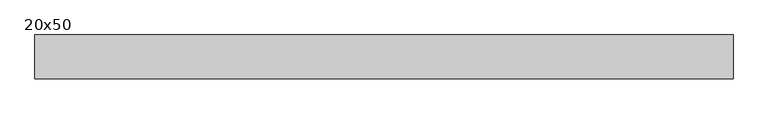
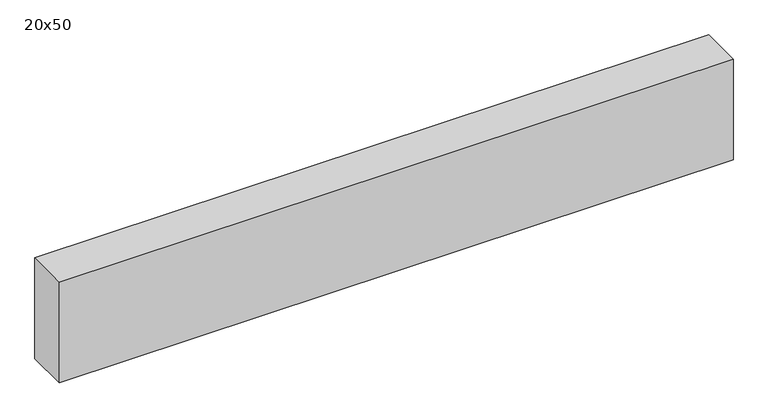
"""IFC4 building model written with IfcOpenShell, lengths in millimetres: beam geometry, C&L poutre béton gestion affichage par niveau : 20x50."""

from ifc_helpers import new_model, si_unit, frame, origin, place, context, project, spatial, polyline, outline, extrude, source, transform, mapped, element, save


def beam_20x50_8c8adaaa(model_context):
    return source(origin(), model_context, "Body", "SweptSolid", [
        extrude(outline(polyline([(1584.1272034, 100.0), (1584.1272034, -100.0), (-1584.1272034, -100.0), (-1584.1272034, 100.0), (1584.1272034, 100.0)])), frame((0.0, 0.0, -250.0), z_axis=(0.0, 0.0, 1.0), x_axis=(1.0, 0.0, 0.0)), (0.0, 0.0, 1.0), 500.0),
    ])


if __name__ == "__main__":
    model = new_model("IFC4")
    model_context = context("Model", 3, world=origin())
    ifc_project = project(units=[si_unit("LENGTHUNIT", "METRE", prefix="MILLI")], contexts=[model_context])
    site = spatial("IfcSite", under=ifc_project)
    building = spatial("IfcBuilding", under=site)
    placement = place(None, origin())
    beam_20x50_shape = beam_20x50_8c8adaaa(model_context)
    element("IfcBeam", 1, ObjectType="C&L poutre béton gestion affichage par niveau : 20x50", at=placement, inside=building, context=model_context, shape_type="MappedRepresentation", body=[
        mapped(beam_20x50_shape, transform((0.0, 0.0, 0.0), x_axis=(1.0, 0.0, 0.0), y_axis=(0.0, 1.0, 0.0), z_axis=(0.0, 0.0, 1.0))),
    ])
    save(model, "model.ifc")
